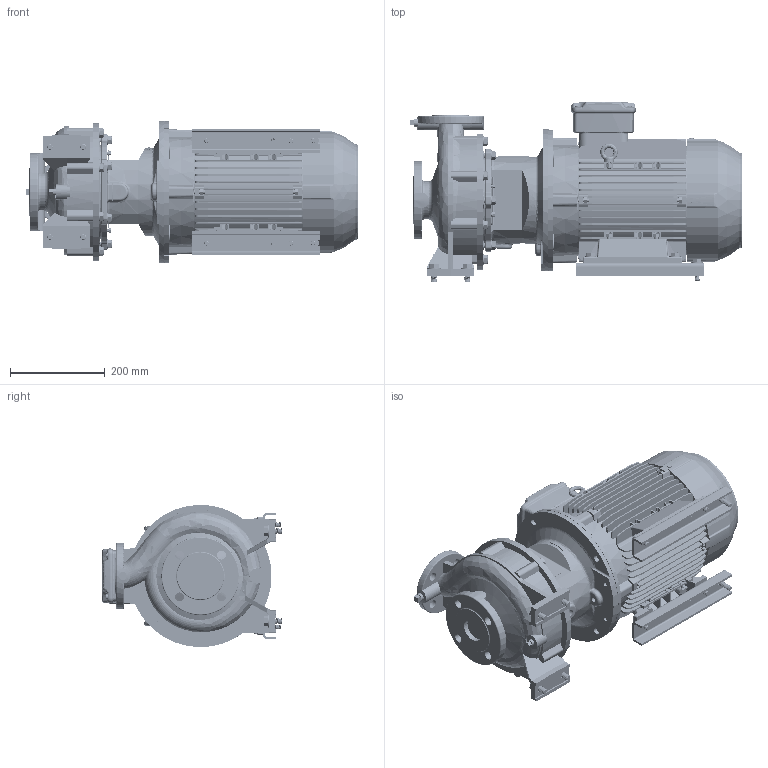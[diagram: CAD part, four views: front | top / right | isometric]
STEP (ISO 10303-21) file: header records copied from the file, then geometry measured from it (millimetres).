
FILE_DESCRIPTION (( 'STEP AP214' ), '1' );
FILE_NAME ('GSD2 32-200_9.2_(132M)_W21.STEP', '2026-07-02T05:02:34', ( '' ), ( '' ), 'SwSTEP 2.0', 'SolidWorks 2024', '' );
FILE_SCHEMA (( 'AUTOMOTIVE_DESIGN' ));
Length unit declared in the file: millimetre
Products named in the file (9): 132M ALIE3_W21T_B35; Parametric bolt_SFT-A253B; Parametric bolt_SFT-A299B; GSD2  32-200_9.2_(132M)_W21; Parametric Flat Washer_M10; Parametric bolt_SFT-A257B; 140_178 x 28 - 271472025; 32-200-132M; Parametric Flat Washer_M12
Assembly tree (24 placements, depth 2):
  GSD2  32-200_9.2_(132M)_W21
    32-200-132M
    140_178 x 28 - 271472025  x2
    Parametric bolt_SFT-A299B  x4
    Parametric bolt_SFT-A253B  x4
    Parametric bolt_SFT-A257B  x2
    Parametric Flat Washer_M10  x6
    Parametric Flat Washer_M12  x4
    132M ALIE3_W21T_B35
Bounding box: 700.45 x 380.5 x 300 mm (x, y, z)
Volume: 28154217.9 mm3; surface area: 2043390.4 mm2
Topology: 42 solids, 42 shells, 5237 faces, 13765 edges, 8953 vertices
Faces by surface type: plane 3011, cylinder 1352, torus 339, bspline 267, cone 236, sphere 32
Entity records: 183591 total; most frequent: CARTESIAN_POINT 67360, ORIENTED_EDGE 25182, DIRECTION 22489, EDGE_CURVE 12591, VERTEX_POINT 8205, LINE 8149, VECTOR 8149, AXIS2_PLACEMENT_3D 7170
